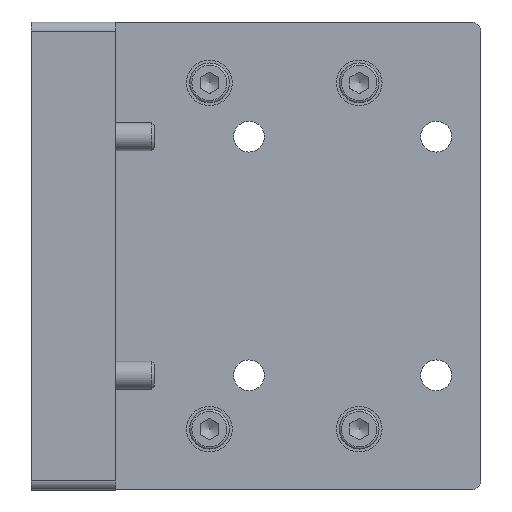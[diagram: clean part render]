
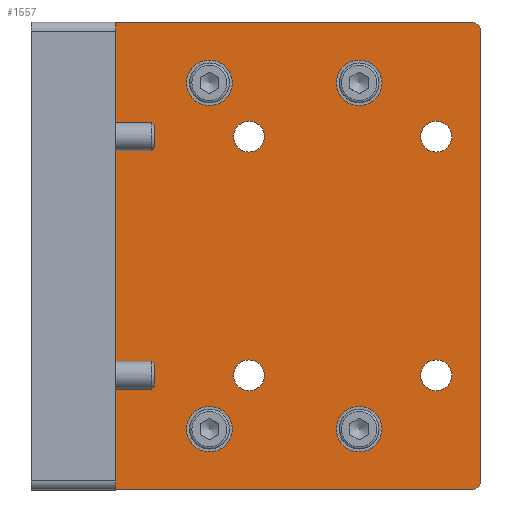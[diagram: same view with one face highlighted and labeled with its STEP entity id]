
A CAD part, front view. The second image highlights one B-rep face of the part: STEP entity #1557.
In plain terms, the highlighted planar face has unit normal (0, -1, 0) as drawn and (0, 1, 0) by its records, which use the part's own axes.
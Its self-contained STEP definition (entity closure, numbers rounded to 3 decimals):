
#187=LINE('',#2552,#239);
#188=LINE('',#2581,#240);
#189=LINE('',#2585,#241);
#190=LINE('',#2588,#242);
#239=VECTOR('',#2014,10.);
#240=VECTOR('',#2047,10.);
#241=VECTOR('',#2050,10.);
#242=VECTOR('',#2053,10.);
#289=PLANE('',#1775);
#343=FACE_BOUND('',#570,.T.);
#344=FACE_BOUND('',#571,.T.);
#345=FACE_BOUND('',#572,.T.);
#346=FACE_BOUND('',#573,.T.);
#347=FACE_BOUND('',#574,.T.);
#348=FACE_BOUND('',#575,.T.);
#349=FACE_BOUND('',#576,.T.);
#350=FACE_BOUND('',#577,.T.);
#351=FACE_BOUND('',#578,.T.);
#352=FACE_BOUND('',#579,.T.);
#353=FACE_BOUND('',#580,.T.);
#354=FACE_BOUND('',#581,.T.);
#355=FACE_BOUND('',#582,.T.);
#356=FACE_BOUND('',#583,.T.);
#357=FACE_BOUND('',#584,.T.);
#444=FACE_OUTER_BOUND('',#569,.T.);
#569=EDGE_LOOP('',(#1209,#1210,#1211,#1212,#1213,#1214,#1215,#1216));
#570=EDGE_LOOP('',(#1217));
#571=EDGE_LOOP('',(#1218));
#572=EDGE_LOOP('',(#1219));
#573=EDGE_LOOP('',(#1220));
#574=EDGE_LOOP('',(#1221));
#575=EDGE_LOOP('',(#1222));
#576=EDGE_LOOP('',(#1223));
#577=EDGE_LOOP('',(#1224));
#578=EDGE_LOOP('',(#1225));
#579=EDGE_LOOP('',(#1226));
#580=EDGE_LOOP('',(#1227));
#581=EDGE_LOOP('',(#1228));
#582=EDGE_LOOP('',(#1229));
#583=EDGE_LOOP('',(#1230));
#584=EDGE_LOOP('',(#1231));
#783=CIRCLE('',#1774,4.5);
#784=CIRCLE('',#1776,2.);
#785=CIRCLE('',#1777,2.);
#786=CIRCLE('',#1778,2.);
#787=CIRCLE('',#1779,2.);
#788=CIRCLE('',#1780,4.5);
#789=CIRCLE('',#1781,3.3);
#790=CIRCLE('',#1782,3.3);
#791=CIRCLE('',#1783,3.3);
#792=CIRCLE('',#1784,3.3);
#793=CIRCLE('',#1785,3.3);
#794=CIRCLE('',#1786,3.3);
#795=CIRCLE('',#1787,3.3);
#796=CIRCLE('',#1788,3.3);
#797=CIRCLE('',#1789,3.3);
#798=CIRCLE('',#1790,4.875);
#799=CIRCLE('',#1791,4.875);
#800=CIRCLE('',#1792,4.875);
#801=CIRCLE('',#1793,4.875);
#877=VERTEX_POINT('',#2546);
#879=VERTEX_POINT('',#2550);
#888=VERTEX_POINT('',#2573);
#889=VERTEX_POINT('',#2576);
#890=VERTEX_POINT('',#2578);
#891=VERTEX_POINT('',#2580);
#892=VERTEX_POINT('',#2582);
#893=VERTEX_POINT('',#2584);
#894=VERTEX_POINT('',#2586);
#895=VERTEX_POINT('',#2589);
#896=VERTEX_POINT('',#2591);
#897=VERTEX_POINT('',#2593);
#898=VERTEX_POINT('',#2595);
#899=VERTEX_POINT('',#2597);
#900=VERTEX_POINT('',#2599);
#901=VERTEX_POINT('',#2601);
#902=VERTEX_POINT('',#2603);
#903=VERTEX_POINT('',#2605);
#904=VERTEX_POINT('',#2607);
#905=VERTEX_POINT('',#2609);
#906=VERTEX_POINT('',#2611);
#907=VERTEX_POINT('',#2613);
#908=VERTEX_POINT('',#2615);
#1024=EDGE_CURVE('',#877,#879,#187,.T.);
#1033=EDGE_CURVE('',#888,#888,#783,.T.);
#1034=EDGE_CURVE('',#877,#889,#784,.T.);
#1035=EDGE_CURVE('',#890,#879,#785,.T.);
#1036=EDGE_CURVE('',#890,#891,#188,.T.);
#1037=EDGE_CURVE('',#892,#891,#786,.T.);
#1038=EDGE_CURVE('',#892,#893,#189,.T.);
#1039=EDGE_CURVE('',#894,#893,#787,.T.);
#1040=EDGE_CURVE('',#894,#889,#190,.T.);
#1041=EDGE_CURVE('',#895,#895,#788,.T.);
#1042=EDGE_CURVE('',#896,#896,#789,.T.);
#1043=EDGE_CURVE('',#897,#897,#790,.T.);
#1044=EDGE_CURVE('',#898,#898,#791,.T.);
#1045=EDGE_CURVE('',#899,#899,#792,.T.);
#1046=EDGE_CURVE('',#900,#900,#793,.T.);
#1047=EDGE_CURVE('',#901,#901,#794,.T.);
#1048=EDGE_CURVE('',#902,#902,#795,.T.);
#1049=EDGE_CURVE('',#903,#903,#796,.T.);
#1050=EDGE_CURVE('',#904,#904,#797,.T.);
#1051=EDGE_CURVE('',#905,#905,#798,.T.);
#1052=EDGE_CURVE('',#906,#906,#799,.T.);
#1053=EDGE_CURVE('',#907,#907,#800,.T.);
#1054=EDGE_CURVE('',#908,#908,#801,.T.);
#1209=ORIENTED_EDGE('',*,*,#1034,.F.);
#1210=ORIENTED_EDGE('',*,*,#1024,.T.);
#1211=ORIENTED_EDGE('',*,*,#1035,.F.);
#1212=ORIENTED_EDGE('',*,*,#1036,.T.);
#1213=ORIENTED_EDGE('',*,*,#1037,.F.);
#1214=ORIENTED_EDGE('',*,*,#1038,.T.);
#1215=ORIENTED_EDGE('',*,*,#1039,.F.);
#1216=ORIENTED_EDGE('',*,*,#1040,.T.);
#1217=ORIENTED_EDGE('',*,*,#1041,.F.);
#1218=ORIENTED_EDGE('',*,*,#1042,.T.);
#1219=ORIENTED_EDGE('',*,*,#1043,.T.);
#1220=ORIENTED_EDGE('',*,*,#1044,.T.);
#1221=ORIENTED_EDGE('',*,*,#1045,.T.);
#1222=ORIENTED_EDGE('',*,*,#1046,.T.);
#1223=ORIENTED_EDGE('',*,*,#1047,.T.);
#1224=ORIENTED_EDGE('',*,*,#1048,.T.);
#1225=ORIENTED_EDGE('',*,*,#1049,.T.);
#1226=ORIENTED_EDGE('',*,*,#1050,.T.);
#1227=ORIENTED_EDGE('',*,*,#1051,.T.);
#1228=ORIENTED_EDGE('',*,*,#1052,.T.);
#1229=ORIENTED_EDGE('',*,*,#1053,.T.);
#1230=ORIENTED_EDGE('',*,*,#1054,.T.);
#1231=ORIENTED_EDGE('',*,*,#1033,.F.);
#1557=ADVANCED_FACE('',(#444,#343,#344,#345,#346,#347,#348,#349,#350,#351,
#352,#353,#354,#355,#356,#357),#289,.T.);
#1774=AXIS2_PLACEMENT_3D('',#2574,#2039,#2040);
#1775=AXIS2_PLACEMENT_3D('',#2575,#2041,#2042);
#1776=AXIS2_PLACEMENT_3D('',#2577,#2043,#2044);
#1777=AXIS2_PLACEMENT_3D('',#2579,#2045,#2046);
#1778=AXIS2_PLACEMENT_3D('',#2583,#2048,#2049);
#1779=AXIS2_PLACEMENT_3D('',#2587,#2051,#2052);
#1780=AXIS2_PLACEMENT_3D('',#2590,#2054,#2055);
#1781=AXIS2_PLACEMENT_3D('',#2592,#2056,#2057);
#1782=AXIS2_PLACEMENT_3D('',#2594,#2058,#2059);
#1783=AXIS2_PLACEMENT_3D('',#2596,#2060,#2061);
#1784=AXIS2_PLACEMENT_3D('',#2598,#2062,#2063);
#1785=AXIS2_PLACEMENT_3D('',#2600,#2064,#2065);
#1786=AXIS2_PLACEMENT_3D('',#2602,#2066,#2067);
#1787=AXIS2_PLACEMENT_3D('',#2604,#2068,#2069);
#1788=AXIS2_PLACEMENT_3D('',#2606,#2070,#2071);
#1789=AXIS2_PLACEMENT_3D('',#2608,#2072,#2073);
#1790=AXIS2_PLACEMENT_3D('',#2610,#2074,#2075);
#1791=AXIS2_PLACEMENT_3D('',#2612,#2076,#2077);
#1792=AXIS2_PLACEMENT_3D('',#2614,#2078,#2079);
#1793=AXIS2_PLACEMENT_3D('',#2616,#2080,#2081);
#2014=DIRECTION('',(0.,0.,1.));
#2039=DIRECTION('center_axis',(0.,1.,0.));
#2040=DIRECTION('ref_axis',(-1.,0.,0.));
#2041=DIRECTION('center_axis',(0.,1.,0.));
#2042=DIRECTION('ref_axis',(0.,0.,1.));
#2043=DIRECTION('center_axis',(0.,-1.,0.));
#2044=DIRECTION('ref_axis',(-0.707,0.,-0.707));
#2045=DIRECTION('center_axis',(0.,-1.,0.));
#2046=DIRECTION('ref_axis',(-0.707,0.,0.707));
#2047=DIRECTION('',(1.,0.,0.));
#2048=DIRECTION('center_axis',(0.,-1.,0.));
#2049=DIRECTION('ref_axis',(0.707,0.,0.707));
#2050=DIRECTION('',(0.,0.,-1.));
#2051=DIRECTION('center_axis',(0.,-1.,0.));
#2052=DIRECTION('ref_axis',(0.707,0.,-0.707));
#2053=DIRECTION('',(-1.,0.,0.));
#2054=DIRECTION('center_axis',(0.,1.,0.));
#2055=DIRECTION('ref_axis',(-1.,0.,0.));
#2056=DIRECTION('center_axis',(0.,-1.,0.));
#2057=DIRECTION('ref_axis',(1.,0.,0.));
#2058=DIRECTION('center_axis',(0.,-1.,0.));
#2059=DIRECTION('ref_axis',(1.,0.,0.));
#2060=DIRECTION('center_axis',(0.,-1.,0.));
#2061=DIRECTION('ref_axis',(1.,0.,0.));
#2062=DIRECTION('center_axis',(0.,-1.,0.));
#2063=DIRECTION('ref_axis',(1.,0.,0.));
#2064=DIRECTION('center_axis',(0.,-1.,0.));
#2065=DIRECTION('ref_axis',(1.,0.,0.));
#2066=DIRECTION('center_axis',(0.,-1.,0.));
#2067=DIRECTION('ref_axis',(1.,0.,0.));
#2068=DIRECTION('center_axis',(0.,-1.,0.));
#2069=DIRECTION('ref_axis',(1.,0.,0.));
#2070=DIRECTION('center_axis',(0.,-1.,0.));
#2071=DIRECTION('ref_axis',(1.,0.,0.));
#2072=DIRECTION('center_axis',(0.,-1.,0.));
#2073=DIRECTION('ref_axis',(1.,0.,0.));
#2074=DIRECTION('center_axis',(0.,-1.,0.));
#2075=DIRECTION('ref_axis',(1.,0.,0.));
#2076=DIRECTION('center_axis',(0.,-1.,0.));
#2077=DIRECTION('ref_axis',(1.,0.,0.));
#2078=DIRECTION('center_axis',(0.,-1.,0.));
#2079=DIRECTION('ref_axis',(1.,0.,0.));
#2080=DIRECTION('center_axis',(0.,-1.,0.));
#2081=DIRECTION('ref_axis',(1.,0.,0.));
#2546=CARTESIAN_POINT('',(-48.,9.,-48.));
#2550=CARTESIAN_POINT('',(-48.,9.,48.));
#2552=CARTESIAN_POINT('',(-48.,9.,-50.));
#2573=CARTESIAN_POINT('',(43.5,9.,13.5));
#2574=CARTESIAN_POINT('Origin',(39.,9.,13.5));
#2575=CARTESIAN_POINT('Origin',(0.,9.,0.));
#2576=CARTESIAN_POINT('',(-46.,9.,-50.));
#2577=CARTESIAN_POINT('Origin',(-46.,9.,-48.));
#2578=CARTESIAN_POINT('',(-46.,9.,50.));
#2579=CARTESIAN_POINT('Origin',(-46.,9.,48.));
#2580=CARTESIAN_POINT('',(46.,9.,50.));
#2581=CARTESIAN_POINT('',(-48.,9.,50.));
#2582=CARTESIAN_POINT('',(48.,9.,48.));
#2583=CARTESIAN_POINT('Origin',(46.,9.,48.));
#2584=CARTESIAN_POINT('',(48.,9.,-48.));
#2585=CARTESIAN_POINT('',(48.,9.,50.));
#2586=CARTESIAN_POINT('',(46.,9.,-50.));
#2587=CARTESIAN_POINT('Origin',(46.,9.,-48.));
#2588=CARTESIAN_POINT('',(48.,9.,-50.));
#2589=CARTESIAN_POINT('',(43.5,9.,-13.5));
#2590=CARTESIAN_POINT('Origin',(39.,9.,-13.5));
#2591=CARTESIAN_POINT('',(44.8,9.,25.5));
#2592=CARTESIAN_POINT('Origin',(41.5,9.,25.5));
#2593=CARTESIAN_POINT('',(44.8,9.,-25.5));
#2594=CARTESIAN_POINT('Origin',(41.5,9.,-25.5));
#2595=CARTESIAN_POINT('',(4.8,9.,25.5));
#2596=CARTESIAN_POINT('Origin',(1.5,9.,25.5));
#2597=CARTESIAN_POINT('',(4.8,9.,-25.5));
#2598=CARTESIAN_POINT('Origin',(1.5,9.,-25.5));
#2599=CARTESIAN_POINT('',(-35.2,9.,25.5));
#2600=CARTESIAN_POINT('Origin',(-38.5,9.,25.5));
#2601=CARTESIAN_POINT('',(-35.2,9.,-25.5));
#2602=CARTESIAN_POINT('Origin',(-38.5,9.,-25.5));
#2603=CARTESIAN_POINT('',(35.7,9.,0.));
#2604=CARTESIAN_POINT('Origin',(39.,9.,0.));
#2605=CARTESIAN_POINT('',(35.7,9.,-37.5));
#2606=CARTESIAN_POINT('Origin',(39.,9.,-37.5));
#2607=CARTESIAN_POINT('',(35.7,9.,37.5));
#2608=CARTESIAN_POINT('Origin',(39.,9.,37.5));
#2609=CARTESIAN_POINT('',(-17.175,9.,37.));
#2610=CARTESIAN_POINT('Origin',(-22.05,9.,37.));
#2611=CARTESIAN_POINT('',(14.825,9.,-37.));
#2612=CARTESIAN_POINT('Origin',(9.95,9.,-37.));
#2613=CARTESIAN_POINT('',(-17.175,9.,-37.));
#2614=CARTESIAN_POINT('Origin',(-22.05,9.,-37.));
#2615=CARTESIAN_POINT('',(14.825,9.,37.));
#2616=CARTESIAN_POINT('Origin',(9.95,9.,37.));
